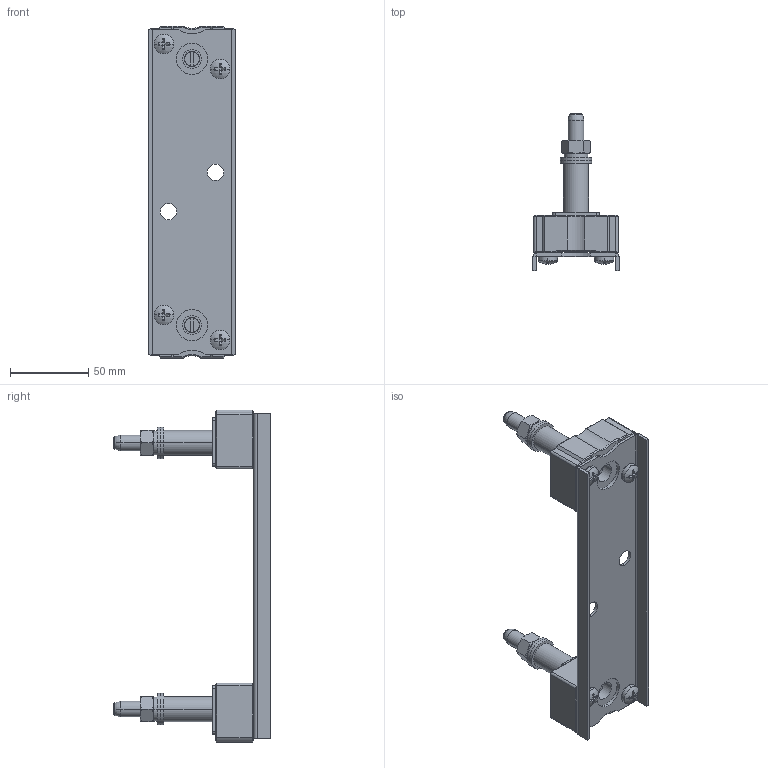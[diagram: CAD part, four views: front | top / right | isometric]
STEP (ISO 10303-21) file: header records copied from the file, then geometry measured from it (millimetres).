
FILE_DESCRIPTION (( 'STEP AP214' ), '1' );
FILE_NAME ('SP50X16.step', '2011-10-27T07:40:54', ( 'Radek Veselý' ), ( 'Siemens and Partners' ), 'SwSTEP 2.0', 'SolidWorks 2006303', '' );
FILE_SCHEMA (( 'AUTOMOTIVE_DESIGN' ));
Length unit declared in the file: millimetre
Products named in the file (1): SP50X16
Bounding box: 55 x 100.2 x 212 mm (x, y, z)
Volume: 145286.3 mm3; surface area: 69608.8 mm2
Topology: 25 solids, 25 shells, 637 faces, 1443 edges, 890 vertices
Faces by surface type: plane 318, cylinder 199, cone 84, torus 28, sphere 8
Entity records: 25289 total; most frequent: CARTESIAN_POINT 3491, DIRECTION 3189, ORIENTED_EDGE 2870, EDGE_CURVE 1435, AXIS2_PLACEMENT_3D 1236, VERTEX_POINT 890, EDGE_LOOP 723, VECTOR 717
